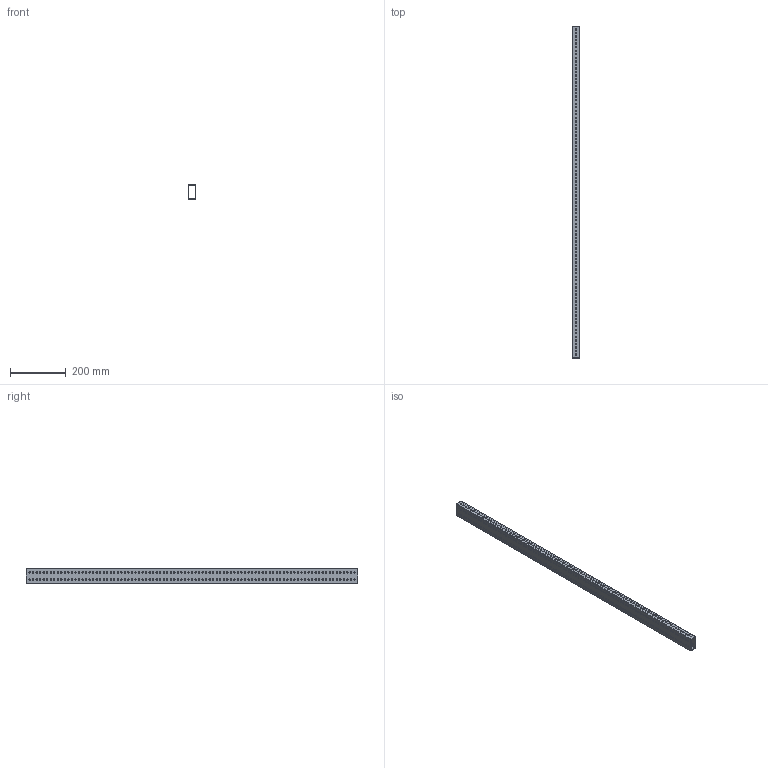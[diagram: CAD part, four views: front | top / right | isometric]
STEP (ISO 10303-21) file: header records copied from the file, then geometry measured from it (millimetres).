
FILE_DESCRIPTION(/* description */ (''),/* implementation_level */ '2;1');
FILE_NAME(/* name */ 'SR-TUBE-2X1-0.0625-GRID v1.step',/* time_stamp */ '2025-04-30T16:10:53-05:00',/* author */ (''),/* organization */ (''),/* preprocessor_version */ 'ST-DEVELOPER v20.1',/* originating_system */ 'Autodesk Translation Framework v14.4.0.0',/* authorisation */ '');
FILE_SCHEMA (('AUTOMOTIVE_DESIGN { 1 0 10303 214 3 1 1 }'));
Length unit declared in the file: inch
Products named in the file (1): FusionComponent
Bounding box: 25.4 x 1193.8 x 50.8 mm (x, y, z)
Volume: 265679.6 mm3; surface area: 336109.4 mm2
Topology: 1 solids, 1 shells, 572 faces, 1710 edges, 1140 vertices
Faces by surface type: cylinder 562, plane 10
Full cylindrical faces by diameter (mm): 5 x558
Entity records: 22229 total; most frequent: DIRECTION 3980, CARTESIAN_POINT 3423, ORIENTED_EDGE 3420, EDGE_CURVE 1710, AXIS2_PLACEMENT_3D 1697, EDGE_LOOP 1690, VERTEX_POINT 1140, CIRCLE 1124
